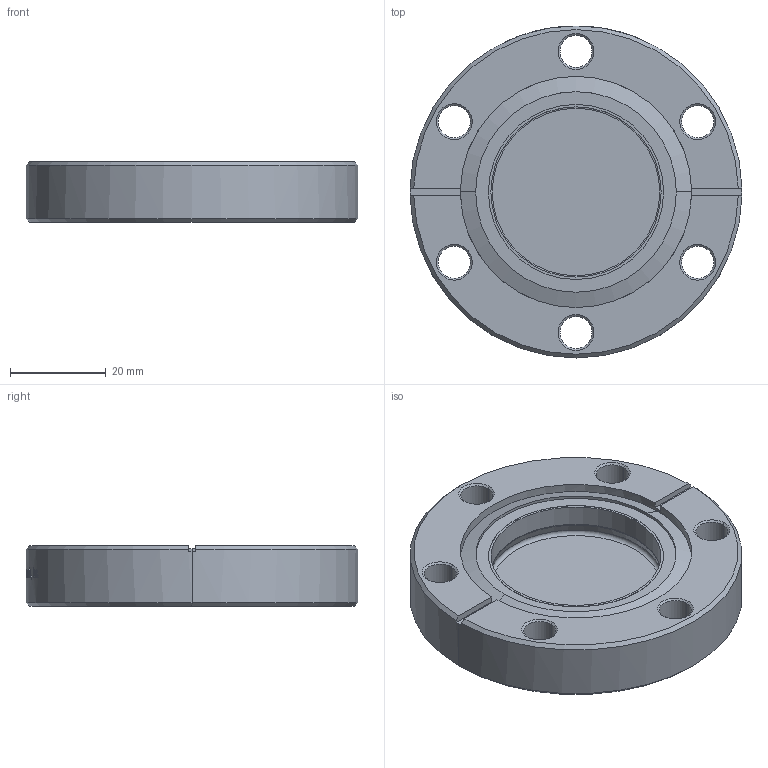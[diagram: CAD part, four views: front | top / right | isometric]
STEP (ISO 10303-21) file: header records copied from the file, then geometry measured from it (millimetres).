
FILE_DESCRIPTION(/* description */ ('Alibre Inc.'),/* implementation_level */ '2;1');
FILE_NAME(/* name */ 'export0',/* time_stamp */ '2009-03-09T14:34:11-07:00',/* author */ (''),/* organization */ (''),/* preprocessor_version */ 'ST-DEVELOPER v10',/* originating_system */ 'Alibre',/* authorisation */ '');
FILE_SCHEMA (('CONFIG_CONTROL_DESIGN'));
Length unit declared in the file: inch
Products named in the file (1): S12124
Bounding box: 69.34 x 69.34 x 12.7 mm (x, y, z)
Volume: 33369.2 mm3; surface area: 13985.8 mm2
Topology: 1 solids, 1 shells, 359 faces, 940 edges, 616 vertices
Faces by surface type: bspline 140, plane 128, cylinder 55, cone 32, torus 3, sphere 1
Full cylindrical faces by diameter (mm): 35.56 x1, 36.576 x1, 38.1 x1, 39.7 x1, 40.64 x1
Entity records: 35471 total; most frequent: CARTESIAN_POINT 27943, ORIENTED_EDGE 1854, DIRECTION 940, EDGE_CURVE 927, VERTEX_POINT 613, B_SPLINE_CURVE_WITH_KNOTS 467, AXIS2_PLACEMENT_3D 418, EDGE_LOOP 414
